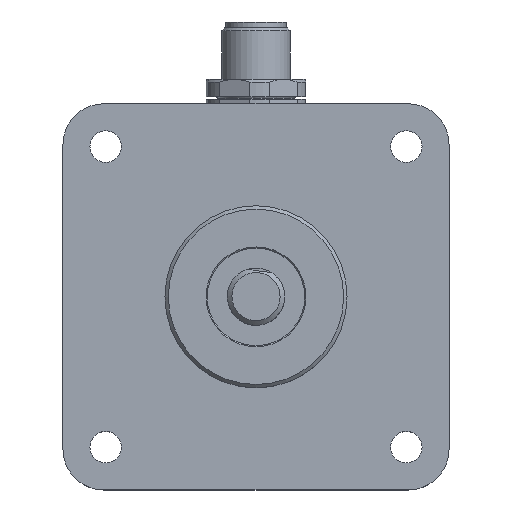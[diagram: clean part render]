
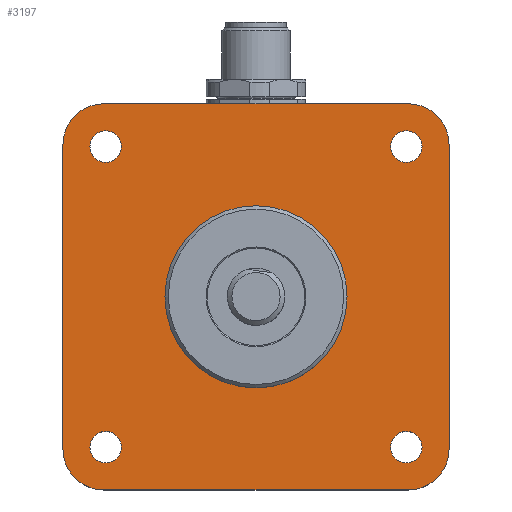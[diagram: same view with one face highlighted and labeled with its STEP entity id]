
A CAD part, top view. The second image highlights one B-rep face of the part: STEP entity #3197.
In plain terms, the highlighted planar face has unit normal (0, 0, 1).
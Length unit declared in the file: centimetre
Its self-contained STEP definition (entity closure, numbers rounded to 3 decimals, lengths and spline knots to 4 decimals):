
#163=VECTOR('',#5146,1.);
#164=VECTOR('',#5149,1.);
#165=VECTOR('',#5152,1.);
#166=VECTOR('',#5155,1.);
#281=LINE('',#4056,#163);
#282=LINE('',#4061,#164);
#283=LINE('',#4065,#165);
#284=LINE('',#4069,#166);
#512=PLANE('',#3494);
#636=VERTEX_POINT('',#4047);
#637=VERTEX_POINT('',#4049);
#638=VERTEX_POINT('',#4051);
#639=VERTEX_POINT('',#4053);
#640=VERTEX_POINT('',#4055);
#641=VERTEX_POINT('',#4057);
#642=VERTEX_POINT('',#4058);
#643=VERTEX_POINT('',#4060);
#644=VERTEX_POINT('',#4062);
#645=VERTEX_POINT('',#4064);
#646=VERTEX_POINT('',#4066);
#647=VERTEX_POINT('',#4068);
#648=VERTEX_POINT('',#4070);
#945=CIRCLE('',#3495,1.5875);
#946=CIRCLE('',#3496,0.275);
#947=CIRCLE('',#3497,0.275);
#948=CIRCLE('',#3498,0.275);
#949=CIRCLE('',#3499,0.275);
#950=CIRCLE('',#3500,0.71);
#951=CIRCLE('',#3501,0.71);
#952=CIRCLE('',#3502,0.71);
#953=CIRCLE('',#3503,0.71);
#1193=EDGE_CURVE('',#636,#636,#945,.T.);
#1194=EDGE_CURVE('',#637,#637,#946,.T.);
#1195=EDGE_CURVE('',#638,#638,#947,.T.);
#1196=EDGE_CURVE('',#639,#639,#948,.T.);
#1197=EDGE_CURVE('',#640,#640,#949,.T.);
#1198=EDGE_CURVE('',#641,#642,#281,.T.);
#1199=EDGE_CURVE('',#642,#643,#950,.T.);
#1200=EDGE_CURVE('',#643,#644,#282,.T.);
#1201=EDGE_CURVE('',#644,#645,#951,.T.);
#1202=EDGE_CURVE('',#645,#646,#283,.T.);
#1203=EDGE_CURVE('',#646,#647,#952,.T.);
#1204=EDGE_CURVE('',#647,#648,#284,.T.);
#1205=EDGE_CURVE('',#648,#641,#953,.T.);
#1585=ORIENTED_EDGE('',*,*,#1193,.T.);
#1586=ORIENTED_EDGE('',*,*,#1194,.F.);
#1587=ORIENTED_EDGE('',*,*,#1195,.F.);
#1588=ORIENTED_EDGE('',*,*,#1196,.F.);
#1589=ORIENTED_EDGE('',*,*,#1197,.F.);
#1590=ORIENTED_EDGE('',*,*,#1198,.T.);
#1591=ORIENTED_EDGE('',*,*,#1199,.T.);
#1592=ORIENTED_EDGE('',*,*,#1200,.T.);
#1593=ORIENTED_EDGE('',*,*,#1201,.T.);
#1594=ORIENTED_EDGE('',*,*,#1202,.T.);
#1595=ORIENTED_EDGE('',*,*,#1203,.T.);
#1596=ORIENTED_EDGE('',*,*,#1204,.T.);
#1597=ORIENTED_EDGE('',*,*,#1205,.T.);
#2349=EDGE_LOOP('',(#1585));
#2350=EDGE_LOOP('',(#1586));
#2351=EDGE_LOOP('',(#1587));
#2352=EDGE_LOOP('',(#1588));
#2353=EDGE_LOOP('',(#1589));
#2354=EDGE_LOOP('',(#1590,#1591,#1592,#1593,#1594,#1595,#1596,#1597));
#2778=FACE_BOUND('',#2349,.T.);
#2779=FACE_BOUND('',#2350,.T.);
#2780=FACE_BOUND('',#2351,.T.);
#2781=FACE_BOUND('',#2352,.T.);
#2782=FACE_BOUND('',#2353,.T.);
#2783=FACE_BOUND('',#2354,.T.);
#3197=ADVANCED_FACE('',(#2778,#2779,#2780,#2781,#2782,#2783),#512,.T.);
#3494=AXIS2_PLACEMENT_3D('',#4045,#5135,$);
#3495=AXIS2_PLACEMENT_3D('',#4046,#5136,#5137);
#3496=AXIS2_PLACEMENT_3D('',#4048,#5138,#5139);
#3497=AXIS2_PLACEMENT_3D('',#4050,#5140,#5141);
#3498=AXIS2_PLACEMENT_3D('',#4052,#5142,#5143);
#3499=AXIS2_PLACEMENT_3D('',#4054,#5144,#5145);
#3500=AXIS2_PLACEMENT_3D('',#4059,#5147,#5148);
#3501=AXIS2_PLACEMENT_3D('',#4063,#5150,#5151);
#3502=AXIS2_PLACEMENT_3D('',#4067,#5153,#5154);
#3503=AXIS2_PLACEMENT_3D('',#4071,#5156,#5157);
#4045=CARTESIAN_POINT('',(0.,0.,
0.));
#4046=CARTESIAN_POINT('',(0.,0.,0.));
#4047=CARTESIAN_POINT('',(1.5875,0.,0.));
#4048=CARTESIAN_POINT('',(2.62,-2.62,0.));
#4049=CARTESIAN_POINT('',(2.895,-2.62,0.));
#4050=CARTESIAN_POINT('',(2.62,2.62,0.));
#4051=CARTESIAN_POINT('',(2.895,2.62,0.));
#4052=CARTESIAN_POINT('',(-2.62,2.62,0.));
#4053=CARTESIAN_POINT('',(-2.345,2.62,0.));
#4054=CARTESIAN_POINT('',(-2.62,-2.62,0.));
#4055=CARTESIAN_POINT('',(-2.345,-2.62,0.));
#4056=CARTESIAN_POINT('',(-3.3655,2.6555,0.));
#4057=CARTESIAN_POINT('',(-3.3655,2.6555,0.));
#4058=CARTESIAN_POINT('',(-3.3655,-2.6555,0.));
#4059=CARTESIAN_POINT('',(-2.6555,-2.6555,0.));
#4060=CARTESIAN_POINT('',(-2.6555,-3.3655,0.));
#4061=CARTESIAN_POINT('',(-2.6555,-3.3655,0.));
#4062=CARTESIAN_POINT('',(2.6555,-3.3655,0.));
#4063=CARTESIAN_POINT('',(2.6555,-2.6555,0.));
#4064=CARTESIAN_POINT('',(3.3655,-2.6555,0.));
#4065=CARTESIAN_POINT('',(3.3655,-2.6555,0.));
#4066=CARTESIAN_POINT('',(3.3655,2.6555,0.));
#4067=CARTESIAN_POINT('',(2.6555,2.6555,0.));
#4068=CARTESIAN_POINT('',(2.6555,3.3655,0.));
#4069=CARTESIAN_POINT('',(2.6555,3.3655,0.));
#4070=CARTESIAN_POINT('',(-2.6555,3.3655,0.));
#4071=CARTESIAN_POINT('',(-2.6555,2.6555,0.));
#5135=DIRECTION('',(0.,0.,1.));
#5136=DIRECTION('',(0.,0.,-1.));
#5137=DIRECTION('',(1.588,0.,0.));
#5138=DIRECTION('',(0.,0.,1.));
#5139=DIRECTION('',(0.275,0.,0.));
#5140=DIRECTION('',(0.,0.,1.));
#5141=DIRECTION('',(0.275,0.,0.));
#5142=DIRECTION('',(0.,0.,1.));
#5143=DIRECTION('',(0.275,0.,0.));
#5144=DIRECTION('',(0.,0.,1.));
#5145=DIRECTION('',(0.275,0.,0.));
#5146=DIRECTION('',(0.,-1.,0.));
#5147=DIRECTION('',(0.,0.,1.));
#5148=DIRECTION('',(0.71,0.,0.));
#5149=DIRECTION('',(1.,0.,0.));
#5150=DIRECTION('',(0.,0.,1.));
#5151=DIRECTION('',(0.71,0.,0.));
#5152=DIRECTION('',(0.,1.,0.));
#5153=DIRECTION('',(0.,0.,1.));
#5154=DIRECTION('',(0.71,0.,0.));
#5155=DIRECTION('',(-1.,0.,0.));
#5156=DIRECTION('',(0.,0.,1.));
#5157=DIRECTION('',(0.71,0.,0.));
